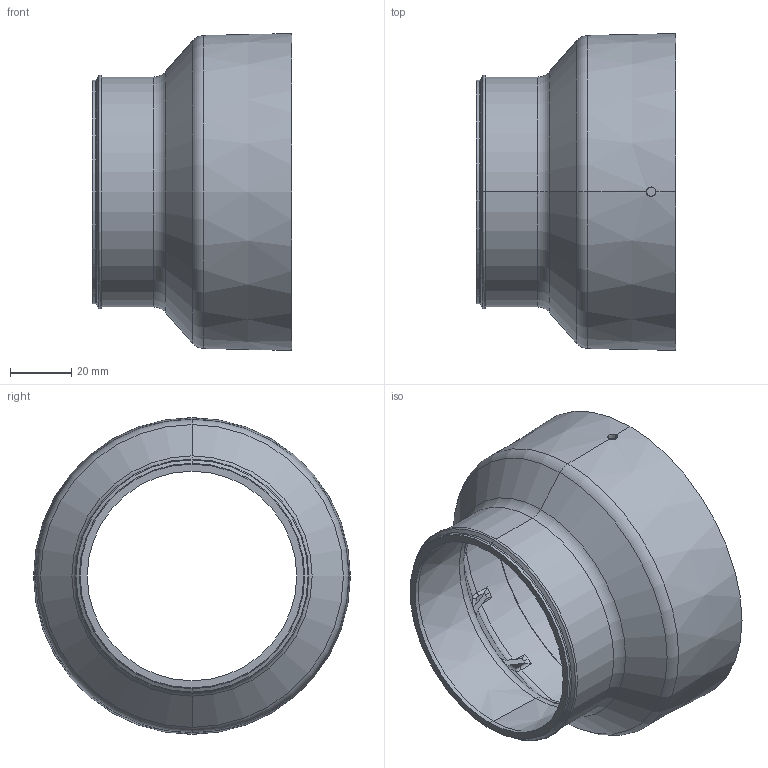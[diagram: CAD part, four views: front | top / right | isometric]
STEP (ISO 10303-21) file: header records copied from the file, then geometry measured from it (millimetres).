
FILE_DESCRIPTION((''),'2;1');
FILE_NAME('105-315-01_PRT','2022-02-14T08:13:07',('SYSTEM'),(''),'CREO PARAMETRIC BY PTC INC, 2018260','CREO PARAMETRIC BY PTC INC, 2018260','');
FILE_SCHEMA(('CONFIG_CONTROL_DESIGN'));
Length unit declared in the file: millimetre
Products named in the file (1): 105-315-01_PRT
Bounding box: 65 x 103.35 x 103.35 mm (x, y, z)
Volume: 50002.2 mm3; surface area: 40702.2 mm2
Topology: 1 solids, 1 shells, 199 faces, 530 edges, 334 vertices
Faces by surface type: bspline 108, plane 41, torus 26, cone 20, cylinder 4
Entity records: 10551 total; most frequent: CARTESIAN_POINT 6284, ORIENTED_EDGE 1060, DIRECTION 612, EDGE_CURVE 530, VERTEX_POINT 334, B_SPLINE_CURVE_WITH_KNOTS 244, AXIS2_PLACEMENT_3D 235, EDGE_LOOP 202
